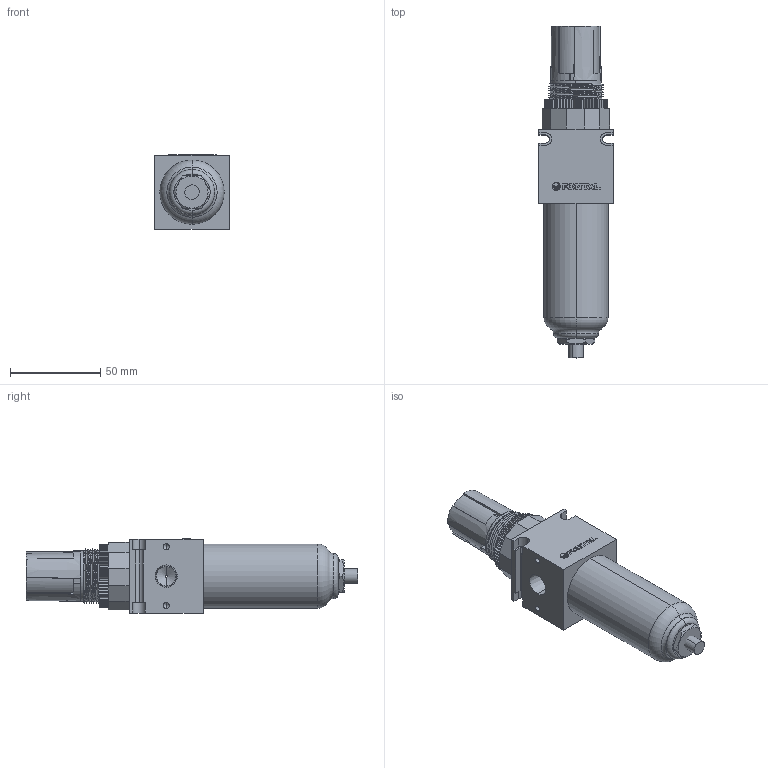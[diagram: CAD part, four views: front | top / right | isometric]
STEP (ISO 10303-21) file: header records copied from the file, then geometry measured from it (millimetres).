
FILE_DESCRIPTION (( 'STEP AP203' ), '1' );
FILE_NAME ('B45#-02#Y##.STEP', '2016-01-14T19:03:24', ( '' ), ( '' ), 'SwSTEP 2.0', 'SolidWorks 2014', '' );
FILE_SCHEMA (( 'CONFIG_CONTROL_DESIGN' ));
Length unit declared in the file: millimetre
Products named in the file (12): R364-上上部; R364-5; R364-3; B45#-02#Y##; R364-2; Y排水; F45-02; R45-1; F45-MARK; F45-2; F45-3; R364-4
Assembly tree (11 placements, depth 3):
  B45#-02#Y##
    R364-上上部
      R364-2
      R364-3
      R364-4
      R364-5
    F45-02
      F45-2
      F45-3
      Y排水
      F45-MARK
      R45-1
Bounding box: 41 x 183.5 x 41.12 mm (x, y, z)
Volume: 176199.8 mm3; surface area: 37311.2 mm2
Topology: 15 solids, 15 shells, 474 faces, 1276 edges, 832 vertices
Faces by surface type: plane 284, cylinder 143, cone 27, bspline 14, torus 6
Entity records: 17591 total; most frequent: CARTESIAN_POINT 4446, ORIENTED_EDGE 2536, DIRECTION 2425, EDGE_CURVE 1268, VECTOR 873, LINE 873, VERTEX_POINT 832, AXIS2_PLACEMENT_3D 776
